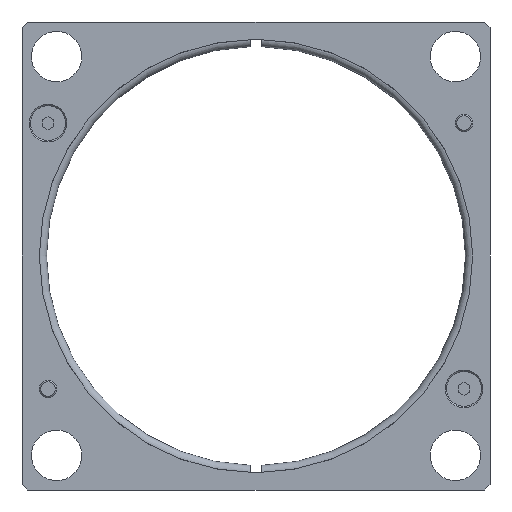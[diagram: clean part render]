
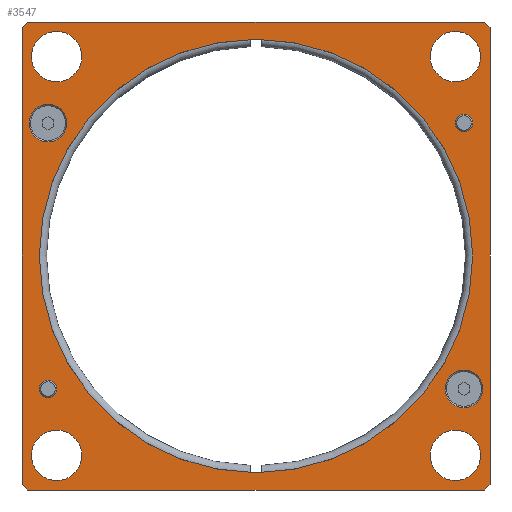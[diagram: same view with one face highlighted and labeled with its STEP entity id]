
A CAD part, front view. The second image highlights one B-rep face of the part: STEP entity #3547.
In plain terms, the highlighted planar face has unit normal (0, -1, 0) as drawn and (0, 0, -1) by its records, which use the part's own axes.
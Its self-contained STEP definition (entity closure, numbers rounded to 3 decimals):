
#127=FACE_BOUND('',#421,.T.);
#128=FACE_BOUND('',#422,.T.);
#129=FACE_BOUND('',#423,.T.);
#130=FACE_BOUND('',#424,.T.);
#131=FACE_BOUND('',#425,.T.);
#132=FACE_BOUND('',#426,.T.);
#133=FACE_BOUND('',#427,.T.);
#134=FACE_BOUND('',#428,.T.);
#135=FACE_BOUND('',#429,.T.);
#161=CIRCLE('',#3820,75.);
#169=CIRCLE('',#3830,6.5);
#171=CIRCLE('',#3833,6.5);
#172=CIRCLE('',#3834,3.);
#173=CIRCLE('',#3835,3.);
#174=CIRCLE('',#3836,8.75);
#175=CIRCLE('',#3837,8.75);
#176=CIRCLE('',#3838,8.75);
#177=CIRCLE('',#3839,8.75);
#219=FACE_OUTER_BOUND('',#420,.T.);
#420=EDGE_LOOP('',(#2392,#2393,#2394,#2395,#2396,#2397,#2398,#2399));
#421=EDGE_LOOP('',(#2400));
#422=EDGE_LOOP('',(#2401));
#423=EDGE_LOOP('',(#2402));
#424=EDGE_LOOP('',(#2403));
#425=EDGE_LOOP('',(#2404));
#426=EDGE_LOOP('',(#2405));
#427=EDGE_LOOP('',(#2406));
#428=EDGE_LOOP('',(#2407));
#429=EDGE_LOOP('',(#2408));
#654=LINE('',#4762,#984);
#655=LINE('',#4764,#985);
#656=LINE('',#4766,#986);
#657=LINE('',#4768,#987);
#658=LINE('',#4770,#988);
#659=LINE('',#4772,#989);
#660=LINE('',#4774,#990);
#661=LINE('',#4775,#991);
#984=VECTOR('',#4028,10.);
#985=VECTOR('',#4029,10.);
#986=VECTOR('',#4030,10.);
#987=VECTOR('',#4031,10.);
#988=VECTOR('',#4032,10.);
#989=VECTOR('',#4033,10.);
#990=VECTOR('',#4034,10.);
#991=VECTOR('',#4035,10.);
#1479=VERTEX_POINT('',#4738);
#1483=VERTEX_POINT('',#4754);
#1485=VERTEX_POINT('',#4760);
#1486=VERTEX_POINT('',#4761);
#1487=VERTEX_POINT('',#4763);
#1488=VERTEX_POINT('',#4765);
#1489=VERTEX_POINT('',#4767);
#1490=VERTEX_POINT('',#4769);
#1491=VERTEX_POINT('',#4771);
#1492=VERTEX_POINT('',#4773);
#1493=VERTEX_POINT('',#4776);
#1494=VERTEX_POINT('',#4778);
#1495=VERTEX_POINT('',#4780);
#1496=VERTEX_POINT('',#4782);
#1497=VERTEX_POINT('',#4784);
#1498=VERTEX_POINT('',#4786);
#1499=VERTEX_POINT('',#4788);
#1834=EDGE_CURVE('',#1479,#1479,#161,.T.);
#1844=EDGE_CURVE('',#1483,#1483,#169,.T.);
#1847=EDGE_CURVE('',#1485,#1486,#654,.T.);
#1848=EDGE_CURVE('',#1485,#1487,#655,.T.);
#1849=EDGE_CURVE('',#1488,#1487,#656,.T.);
#1850=EDGE_CURVE('',#1488,#1489,#657,.T.);
#1851=EDGE_CURVE('',#1490,#1489,#658,.T.);
#1852=EDGE_CURVE('',#1490,#1491,#659,.T.);
#1853=EDGE_CURVE('',#1492,#1491,#660,.T.);
#1854=EDGE_CURVE('',#1492,#1486,#661,.T.);
#1855=EDGE_CURVE('',#1493,#1493,#171,.T.);
#1856=EDGE_CURVE('',#1494,#1494,#172,.T.);
#1857=EDGE_CURVE('',#1495,#1495,#173,.T.);
#1858=EDGE_CURVE('',#1496,#1496,#174,.T.);
#1859=EDGE_CURVE('',#1497,#1497,#175,.T.);
#1860=EDGE_CURVE('',#1498,#1498,#176,.T.);
#1861=EDGE_CURVE('',#1499,#1499,#177,.T.);
#2392=ORIENTED_EDGE('',*,*,#1847,.F.);
#2393=ORIENTED_EDGE('',*,*,#1848,.T.);
#2394=ORIENTED_EDGE('',*,*,#1849,.F.);
#2395=ORIENTED_EDGE('',*,*,#1850,.T.);
#2396=ORIENTED_EDGE('',*,*,#1851,.F.);
#2397=ORIENTED_EDGE('',*,*,#1852,.T.);
#2398=ORIENTED_EDGE('',*,*,#1853,.F.);
#2399=ORIENTED_EDGE('',*,*,#1854,.T.);
#2400=ORIENTED_EDGE('',*,*,#1855,.F.);
#2401=ORIENTED_EDGE('',*,*,#1856,.T.);
#2402=ORIENTED_EDGE('',*,*,#1857,.T.);
#2403=ORIENTED_EDGE('',*,*,#1834,.T.);
#2404=ORIENTED_EDGE('',*,*,#1858,.T.);
#2405=ORIENTED_EDGE('',*,*,#1859,.T.);
#2406=ORIENTED_EDGE('',*,*,#1860,.T.);
#2407=ORIENTED_EDGE('',*,*,#1861,.T.);
#2408=ORIENTED_EDGE('',*,*,#1844,.F.);
#3432=PLANE('',#3832);
#3547=ADVANCED_FACE('',(#219,#127,#128,#129,#130,#131,#132,#133,#134,#135),
#3432,.F.);
#3820=AXIS2_PLACEMENT_3D('',#4739,#3999,#4000);
#3830=AXIS2_PLACEMENT_3D('',#4755,#4021,#4022);
#3832=AXIS2_PLACEMENT_3D('',#4759,#4026,#4027);
#3833=AXIS2_PLACEMENT_3D('',#4777,#4036,#4037);
#3834=AXIS2_PLACEMENT_3D('',#4779,#4038,#4039);
#3835=AXIS2_PLACEMENT_3D('',#4781,#4040,#4041);
#3836=AXIS2_PLACEMENT_3D('',#4783,#4042,#4043);
#3837=AXIS2_PLACEMENT_3D('',#4785,#4044,#4045);
#3838=AXIS2_PLACEMENT_3D('',#4787,#4046,#4047);
#3839=AXIS2_PLACEMENT_3D('',#4789,#4048,#4049);
#3999=DIRECTION('center_axis',(0.,0.,1.));
#4000=DIRECTION('ref_axis',(-1.,0.,0.));
#4021=DIRECTION('center_axis',(0.,0.,-1.));
#4022=DIRECTION('ref_axis',(1.,0.,0.));
#4026=DIRECTION('center_axis',(0.,0.,1.));
#4027=DIRECTION('ref_axis',(1.,0.,0.));
#4028=DIRECTION('',(-0.707,0.707,0.));
#4029=DIRECTION('',(0.,-1.,0.));
#4030=DIRECTION('',(0.707,0.707,0.));
#4031=DIRECTION('',(-1.,0.,0.));
#4032=DIRECTION('',(0.707,-0.707,0.));
#4033=DIRECTION('',(0.,1.,0.));
#4034=DIRECTION('',(-0.707,-0.707,0.));
#4035=DIRECTION('',(1.,0.,0.));
#4036=DIRECTION('center_axis',(0.,0.,-1.));
#4037=DIRECTION('ref_axis',(1.,0.,0.));
#4038=DIRECTION('center_axis',(0.,0.,1.));
#4039=DIRECTION('ref_axis',(1.,0.,0.));
#4040=DIRECTION('center_axis',(0.,0.,1.));
#4041=DIRECTION('ref_axis',(1.,0.,0.));
#4042=DIRECTION('center_axis',(0.,0.,1.));
#4043=DIRECTION('ref_axis',(-1.,0.,0.));
#4044=DIRECTION('center_axis',(0.,0.,1.));
#4045=DIRECTION('ref_axis',(-1.,0.,0.));
#4046=DIRECTION('center_axis',(0.,0.,1.));
#4047=DIRECTION('ref_axis',(-1.,0.,0.));
#4048=DIRECTION('center_axis',(0.,0.,1.));
#4049=DIRECTION('ref_axis',(-1.,0.,0.));
#4738=CARTESIAN_POINT('',(75.,0.,0.));
#4739=CARTESIAN_POINT('Origin',(0.,0.,0.));
#4754=CARTESIAN_POINT('',(-78.5,-46.,0.));
#4755=CARTESIAN_POINT('Origin',(-72.,-46.,0.));
#4759=CARTESIAN_POINT('Origin',(0.,0.,0.));
#4760=CARTESIAN_POINT('',(81.,79.,0.));
#4761=CARTESIAN_POINT('',(79.,81.,0.));
#4762=CARTESIAN_POINT('',(80.,80.,0.));
#4763=CARTESIAN_POINT('',(81.,-79.,0.));
#4764=CARTESIAN_POINT('',(81.,81.,0.));
#4765=CARTESIAN_POINT('',(79.,-81.,0.));
#4766=CARTESIAN_POINT('',(80.,-80.,0.));
#4767=CARTESIAN_POINT('',(-79.,-81.,0.));
#4768=CARTESIAN_POINT('',(81.,-81.,0.));
#4769=CARTESIAN_POINT('',(-81.,-79.,0.));
#4770=CARTESIAN_POINT('',(-80.,-80.,0.));
#4771=CARTESIAN_POINT('',(-81.,79.,0.));
#4772=CARTESIAN_POINT('',(-81.,-81.,0.));
#4773=CARTESIAN_POINT('',(-79.,81.,0.));
#4774=CARTESIAN_POINT('',(-80.,80.,0.));
#4775=CARTESIAN_POINT('',(-81.,81.,0.));
#4776=CARTESIAN_POINT('',(65.5,46.,0.));
#4777=CARTESIAN_POINT('Origin',(72.,46.,0.));
#4778=CARTESIAN_POINT('',(69.,-46.,0.));
#4779=CARTESIAN_POINT('Origin',(72.,-46.,0.));
#4780=CARTESIAN_POINT('',(-75.,46.,0.));
#4781=CARTESIAN_POINT('Origin',(-72.,46.,0.));
#4782=CARTESIAN_POINT('',(-60.25,-69.,0.));
#4783=CARTESIAN_POINT('Origin',(-69.,-69.,0.));
#4784=CARTESIAN_POINT('',(77.75,-69.,0.));
#4785=CARTESIAN_POINT('Origin',(69.,-69.,0.));
#4786=CARTESIAN_POINT('',(77.75,69.,0.));
#4787=CARTESIAN_POINT('Origin',(69.,69.,0.));
#4788=CARTESIAN_POINT('',(-60.25,69.,0.));
#4789=CARTESIAN_POINT('Origin',(-69.,69.,0.));
